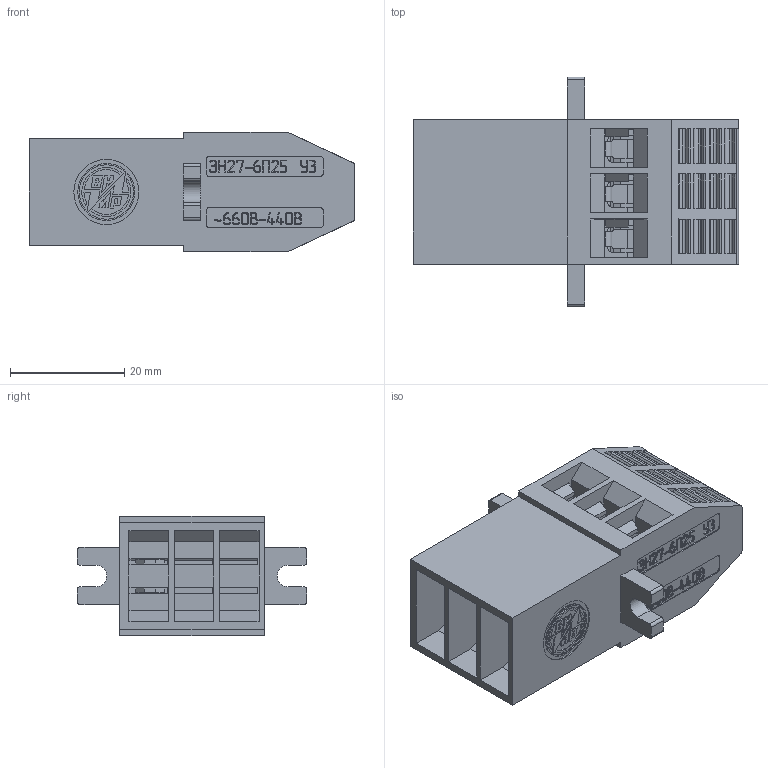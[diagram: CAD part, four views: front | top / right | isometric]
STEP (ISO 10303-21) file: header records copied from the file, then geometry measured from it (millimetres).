
FILE_DESCRIPTION(('STEP AP214'), '1');
FILE_NAME('Ñáîðêà (Ç) äåòàëü', '2024-05-03T05:14:07', (''), (''), 'ASCON STEP Converter 1.6', 'ASCON Math Kernel', '');
FILE_SCHEMA(('AUTOMOTIVE_DESIGN { 1 0 10303 214 3 1 1}'));
Length unit declared in the file: millimetre
Bounding box: 57 x 40.3 x 21 mm (x, y, z)
Volume: 14772.5 mm3; surface area: 16035.8 mm2
Topology: 7 solids, 7 shells, 4895 faces, 14086 edges, 9337 vertices
Faces by surface type: plane 2444, cylinder 2440, bspline 8, torus 2, sphere 1
Full cylindrical faces by diameter (mm): 1 x2, 3 x4, 5.6 x1, 11.4 x3
Entity records: 201595 total; most frequent: CARTESIAN_POINT 29102, DIRECTION 28724, ORIENTED_EDGE 28146, EDGE_CURVE 14073, AXIS2_PLACEMENT_3D 9798, VERTEX_POINT 9337, LINE 9128, VECTOR 9128
